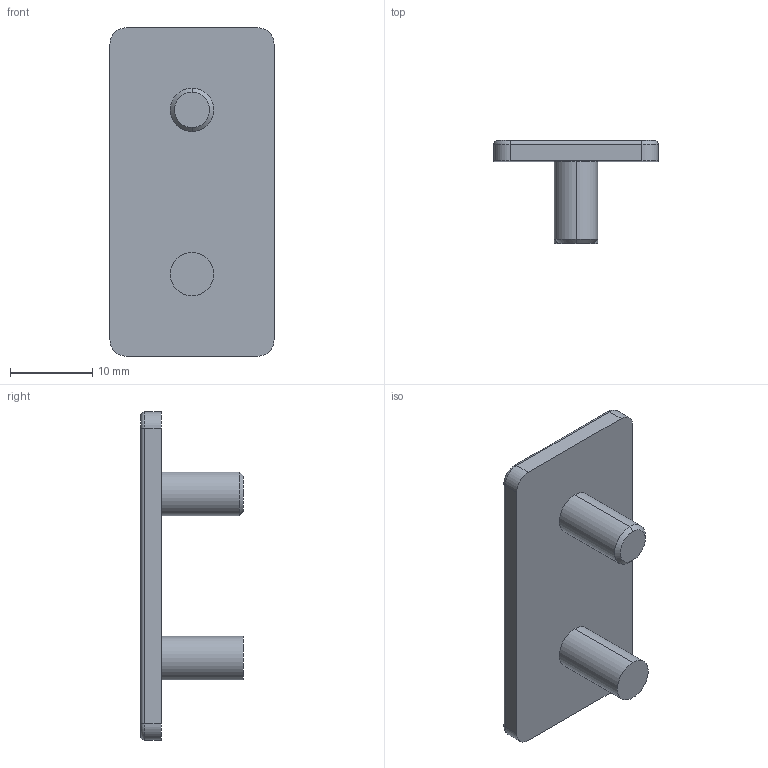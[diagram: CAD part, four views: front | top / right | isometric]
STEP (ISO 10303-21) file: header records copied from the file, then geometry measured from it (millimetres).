
FILE_DESCRIPTION (( 'STEP AP214' ), '1' );
FILE_NAME ('2040-cover.STEP', '2019-01-04T14:55:33', ( '' ), ( '' ), 'SwSTEP 2.0', 'SolidWorks 2018', '' );
FILE_SCHEMA (( 'AUTOMOTIVE_DESIGN' ));
Length unit declared in the file: millimetre
Products named in the file (1): 2040-cover
Bounding box: 20 x 12.5 x 40 mm (x, y, z)
Volume: 2424.5 mm3; surface area: 2187.2 mm2
Topology: 1 solids, 1 shells, 26 faces, 56 edges, 34 vertices
Faces by surface type: cylinder 12, plane 8, torus 4, cone 2
Entity records: 744 total; most frequent: DIRECTION 140, CARTESIAN_POINT 117, ORIENTED_EDGE 112, AXIS2_PLACEMENT_3D 57, EDGE_CURVE 56, VERTEX_POINT 34, CIRCLE 30, EDGE_LOOP 28
